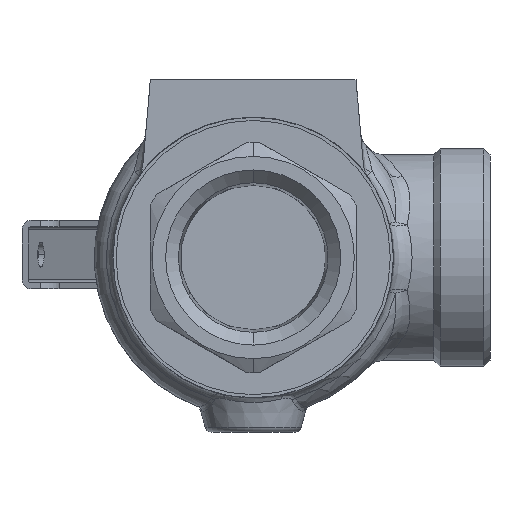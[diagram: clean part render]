
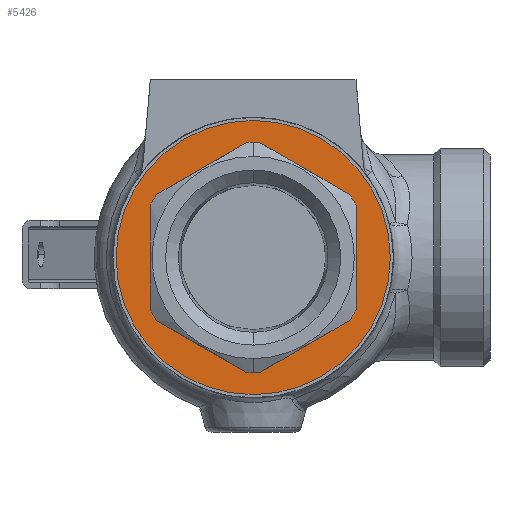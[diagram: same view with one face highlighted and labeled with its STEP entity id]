
A CAD part, front view. The second image highlights one B-rep face of the part: STEP entity #5426.
In plain terms, the highlighted planar face has unit normal (0, -1, 0).
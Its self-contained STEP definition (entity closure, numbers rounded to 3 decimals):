
#22 = EDGE_CURVE ( 'NONE', #3754, #428, #6679, .T. ) ;
#28 = DIRECTION ( 'NONE',  ( -0.866, 0., 0.5 ) ) ;
#116 = CIRCLE ( 'NONE', #3580, 18.5 ) ;
#118 = DIRECTION ( 'NONE',  ( 0., -1., 0. ) ) ;
#194 = VERTEX_POINT ( 'NONE', #973 ) ;
#260 = CARTESIAN_POINT ( 'NONE',  ( 0., -28., 0. ) ) ;
#290 = LINE ( 'NONE', #755, #3890 ) ;
#291 = AXIS2_PLACEMENT_3D ( 'NONE', #2685, #3374, #2246 ) ;
#340 = AXIS2_PLACEMENT_3D ( 'NONE', #6678, #3947, #4482 ) ;
#361 = VERTEX_POINT ( 'NONE', #3384 ) ;
#428 = VERTEX_POINT ( 'NONE', #6239 ) ;
#429 = CIRCLE ( 'NONE', #1113, 18.5 ) ;
#430 = DIRECTION ( 'NONE',  ( 0., 0., 1. ) ) ;
#524 = EDGE_CURVE ( 'NONE', #428, #6227, #5696, .T. ) ;
#582 = VECTOR ( 'NONE', #6613, 1000. ) ;
#660 = DIRECTION ( 'NONE',  ( 0., 0., -1. ) ) ;
#687 = DIRECTION ( 'NONE',  ( 0., -1., 0. ) ) ;
#755 = CARTESIAN_POINT ( 'NONE',  ( 16.5, -28., 0. ) ) ;
#810 = LINE ( 'NONE', #6409, #2234 ) ;
#859 = ORIENTED_EDGE ( 'NONE', *, *, #5393, .F. ) ;
#891 = DIRECTION ( 'NONE',  ( 0., 0., 1. ) ) ;
#935 = DIRECTION ( 'NONE',  ( 0., 1., 0. ) ) ;
#954 = ORIENTED_EDGE ( 'NONE', *, *, #3933, .F. ) ;
#973 = CARTESIAN_POINT ( 'NONE',  ( -15.496, -28., -10.106 ) ) ;
#1010 = CARTESIAN_POINT ( 'NONE',  ( -1.004, -28., -18.473 ) ) ;
#1019 = AXIS2_PLACEMENT_3D ( 'NONE', #3880, #2275, #660 ) ;
#1020 = CARTESIAN_POINT ( 'NONE',  ( -24.75, -28., 4.763 ) ) ;
#1079 = EDGE_CURVE ( 'NONE', #5194, #361, #4723, .T. ) ;
#1096 = EDGE_CURVE ( 'NONE', #1968, #6661, #1824, .T. ) ;
#1113 = AXIS2_PLACEMENT_3D ( 'NONE', #4139, #4753, #1884 ) ;
#1121 = EDGE_CURVE ( 'NONE', #3290, #2996, #4185, .T. ) ;
#1250 = VERTEX_POINT ( 'NONE', #4867 ) ;
#1252 = VERTEX_POINT ( 'NONE', #6025 ) ;
#1412 = ORIENTED_EDGE ( 'NONE', *, *, #3836, .F. ) ;
#1486 = CARTESIAN_POINT ( 'NONE',  ( 15.496, -28., -10.106 ) ) ;
#1508 = CARTESIAN_POINT ( 'NONE',  ( 0., -28., 0. ) ) ;
#1536 = CARTESIAN_POINT ( 'NONE',  ( 0., -28., 0. ) ) ;
#1584 = CARTESIAN_POINT ( 'NONE',  ( 0., -28., -22. ) ) ;
#1608 = EDGE_CURVE ( 'NONE', #2996, #2291, #429, .T. ) ;
#1633 = PLANE ( 'NONE',  #3507 ) ;
#1824 = CIRCLE ( 'NONE', #5879, 22. ) ;
#1831 = CARTESIAN_POINT ( 'NONE',  ( 0., -28., 0. ) ) ;
#1884 = DIRECTION ( 'NONE',  ( 0., 0., -1. ) ) ;
#1904 = EDGE_CURVE ( 'NONE', #2291, #3754, #290, .T. ) ;
#1967 = CARTESIAN_POINT ( 'NONE',  ( -8.25, -28., -23.816 ) ) ;
#1968 = VERTEX_POINT ( 'NONE', #4193 ) ;
#2065 = AXIS2_PLACEMENT_3D ( 'NONE', #1831, #687, #2885 ) ;
#2234 = VECTOR ( 'NONE', #6264, 1000. ) ;
#2246 = DIRECTION ( 'NONE',  ( 0., 0., -1. ) ) ;
#2275 = DIRECTION ( 'NONE',  ( 0., -1., 0. ) ) ;
#2291 = VERTEX_POINT ( 'NONE', #6852 ) ;
#2337 = CARTESIAN_POINT ( 'NONE',  ( 1.004, -28., -18.473 ) ) ;
#2403 = VECTOR ( 'NONE', #5840, 1000. ) ;
#2676 = LINE ( 'NONE', #1020, #582 ) ;
#2685 = CARTESIAN_POINT ( 'NONE',  ( 0., -28., 0. ) ) ;
#2710 = LINE ( 'NONE', #5973, #5154 ) ;
#2781 = ORIENTED_EDGE ( 'NONE', *, *, #3081, .F. ) ;
#2791 = EDGE_LOOP ( 'NONE', ( #3639, #1412 ) ) ;
#2834 = CARTESIAN_POINT ( 'NONE',  ( -8.25, -28., 23.816 ) ) ;
#2885 = DIRECTION ( 'NONE',  ( 0., 0., -1. ) ) ;
#2901 = EDGE_CURVE ( 'NONE', #5272, #1250, #116, .T. ) ;
#2996 = VERTEX_POINT ( 'NONE', #1486 ) ;
#3081 = EDGE_CURVE ( 'NONE', #3444, #5272, #2676, .T. ) ;
#3096 = ORIENTED_EDGE ( 'NONE', *, *, #5809, .F. ) ;
#3160 = FACE_OUTER_BOUND ( 'NONE', #2791, .T. ) ;
#3281 = ORIENTED_EDGE ( 'NONE', *, *, #2901, .F. ) ;
#3290 = VERTEX_POINT ( 'NONE', #2337 ) ;
#3328 = EDGE_CURVE ( 'NONE', #1252, #194, #5183, .T. ) ;
#3374 = DIRECTION ( 'NONE',  ( 0., -1., 0. ) ) ;
#3384 = CARTESIAN_POINT ( 'NONE',  ( 0., -28., -18.5 ) ) ;
#3444 = VERTEX_POINT ( 'NONE', #5274 ) ;
#3507 = AXIS2_PLACEMENT_3D ( 'NONE', #4389, #5905, #6517 ) ;
#3580 = AXIS2_PLACEMENT_3D ( 'NONE', #4022, #118, #6797 ) ;
#3639 = ORIENTED_EDGE ( 'NONE', *, *, #1096, .F. ) ;
#3754 = VERTEX_POINT ( 'NONE', #4752 ) ;
#3813 = ORIENTED_EDGE ( 'NONE', *, *, #1121, .F. ) ;
#3836 = EDGE_CURVE ( 'NONE', #6661, #1968, #5710, .T. ) ;
#3880 = CARTESIAN_POINT ( 'NONE',  ( 0., -28., 0. ) ) ;
#3890 = VECTOR ( 'NONE', #5199, 1000. ) ;
#3933 = EDGE_CURVE ( 'NONE', #361, #3290, #5599, .T. ) ;
#3947 = DIRECTION ( 'NONE',  ( 0., -1., 0. ) ) ;
#4022 = CARTESIAN_POINT ( 'NONE',  ( 0., -28., 0. ) ) ;
#4139 = CARTESIAN_POINT ( 'NONE',  ( 0., -28., 0. ) ) ;
#4185 = LINE ( 'NONE', #1967, #2403 ) ;
#4193 = CARTESIAN_POINT ( 'NONE',  ( 0., -28., 22. ) ) ;
#4353 = DIRECTION ( 'NONE',  ( 0., 0., -1. ) ) ;
#4389 = CARTESIAN_POINT ( 'NONE',  ( -22., -28., 0. ) ) ;
#4482 = DIRECTION ( 'NONE',  ( 0., 0., -1. ) ) ;
#4704 = DIRECTION ( 'NONE',  ( 0., 0., -1. ) ) ;
#4723 = CIRCLE ( 'NONE', #340, 18.5 ) ;
#4752 = CARTESIAN_POINT ( 'NONE',  ( 16.5, -28., 8.367 ) ) ;
#4753 = DIRECTION ( 'NONE',  ( 0., -1., 0. ) ) ;
#4822 = ORIENTED_EDGE ( 'NONE', *, *, #1904, .F. ) ;
#4861 = DIRECTION ( 'NONE',  ( 0., 1., 0. ) ) ;
#4867 = CARTESIAN_POINT ( 'NONE',  ( -16.5, -28., 8.367 ) ) ;
#5070 = AXIS2_PLACEMENT_3D ( 'NONE', #260, #6868, #4704 ) ;
#5071 = ORIENTED_EDGE ( 'NONE', *, *, #22, .F. ) ;
#5154 = VECTOR ( 'NONE', #4353, 1000. ) ;
#5183 = CIRCLE ( 'NONE', #2065, 18.5 ) ;
#5194 = VERTEX_POINT ( 'NONE', #1010 ) ;
#5199 = DIRECTION ( 'NONE',  ( 0., 0., 1. ) ) ;
#5272 = VERTEX_POINT ( 'NONE', #6567 ) ;
#5274 = CARTESIAN_POINT ( 'NONE',  ( -1.004, -28., 18.473 ) ) ;
#5393 = EDGE_CURVE ( 'NONE', #194, #5194, #810, .T. ) ;
#5398 = FACE_BOUND ( 'NONE', #5946, .T. ) ;
#5426 = ADVANCED_FACE ( 'NONE', ( #5398, #3160 ), #1633, .T. ) ;
#5599 = CIRCLE ( 'NONE', #291, 18.5 ) ;
#5696 = LINE ( 'NONE', #2834, #6907 ) ;
#5710 = CIRCLE ( 'NONE', #6860, 22. ) ;
#5809 = EDGE_CURVE ( 'NONE', #1250, #1252, #2710, .T. ) ;
#5840 = DIRECTION ( 'NONE',  ( 0.866, 0., 0.5 ) ) ;
#5879 = AXIS2_PLACEMENT_3D ( 'NONE', #1508, #935, #430 ) ;
#5905 = DIRECTION ( 'NONE',  ( 0., -1., 0. ) ) ;
#5946 = EDGE_LOOP ( 'NONE', ( #6084, #6782, #5071, #4822, #6659, #3813, #954, #6000, #859, #5970, #3096, #3281, #2781 ) ) ;
#5970 = ORIENTED_EDGE ( 'NONE', *, *, #3328, .F. ) ;
#5973 = CARTESIAN_POINT ( 'NONE',  ( -16.5, -28., 0. ) ) ;
#6000 = ORIENTED_EDGE ( 'NONE', *, *, #1079, .F. ) ;
#6025 = CARTESIAN_POINT ( 'NONE',  ( -16.5, -28., -8.367 ) ) ;
#6038 = CARTESIAN_POINT ( 'NONE',  ( 1.004, -28., 18.473 ) ) ;
#6069 = EDGE_CURVE ( 'NONE', #6227, #3444, #6095, .T. ) ;
#6084 = ORIENTED_EDGE ( 'NONE', *, *, #6069, .F. ) ;
#6095 = CIRCLE ( 'NONE', #1019, 18.5 ) ;
#6227 = VERTEX_POINT ( 'NONE', #6038 ) ;
#6239 = CARTESIAN_POINT ( 'NONE',  ( 15.496, -28., 10.106 ) ) ;
#6264 = DIRECTION ( 'NONE',  ( 0.866, 0., -0.5 ) ) ;
#6409 = CARTESIAN_POINT ( 'NONE',  ( -24.75, -28., -4.763 ) ) ;
#6517 = DIRECTION ( 'NONE',  ( 0., 0., -1. ) ) ;
#6567 = CARTESIAN_POINT ( 'NONE',  ( -15.496, -28., 10.106 ) ) ;
#6613 = DIRECTION ( 'NONE',  ( -0.866, 0., -0.5 ) ) ;
#6659 = ORIENTED_EDGE ( 'NONE', *, *, #1608, .F. ) ;
#6661 = VERTEX_POINT ( 'NONE', #1584 ) ;
#6678 = CARTESIAN_POINT ( 'NONE',  ( 0., -28., 0. ) ) ;
#6679 = CIRCLE ( 'NONE', #5070, 18.5 ) ;
#6782 = ORIENTED_EDGE ( 'NONE', *, *, #524, .F. ) ;
#6797 = DIRECTION ( 'NONE',  ( 0., 0., -1. ) ) ;
#6852 = CARTESIAN_POINT ( 'NONE',  ( 16.5, -28., -8.367 ) ) ;
#6860 = AXIS2_PLACEMENT_3D ( 'NONE', #1536, #4861, #891 ) ;
#6868 = DIRECTION ( 'NONE',  ( 0., -1., 0. ) ) ;
#6907 = VECTOR ( 'NONE', #28, 1000. ) ;
